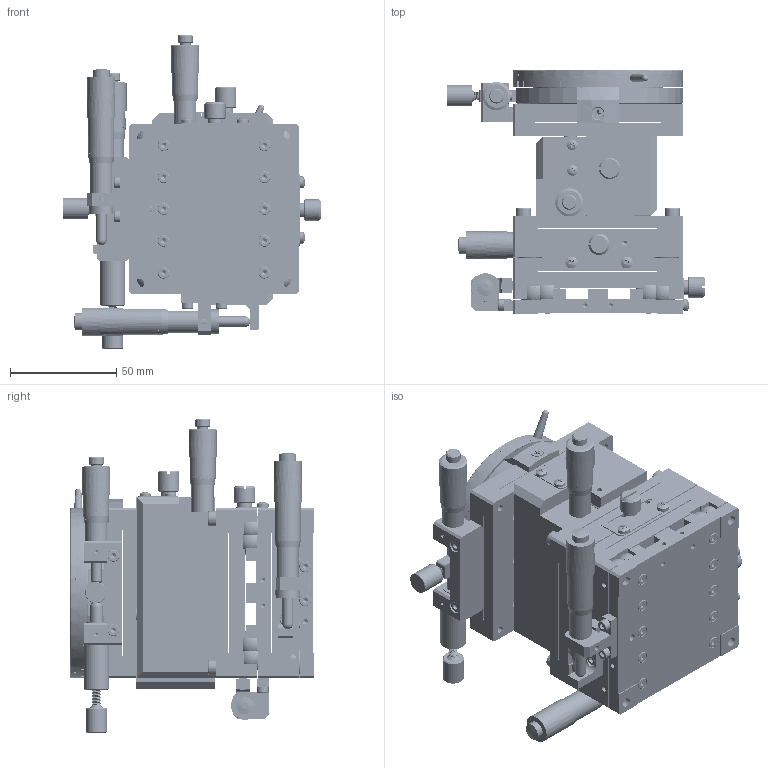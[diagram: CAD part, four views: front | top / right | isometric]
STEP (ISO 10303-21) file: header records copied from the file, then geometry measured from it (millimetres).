
FILE_DESCRIPTION (( 'STEP AP203' ), '1' );
FILE_NAME ('BLT80.STEP', '2024-07-27T07:44:58', ( 'Windows User' ), ( 'P R C' ), 'SwSTEP 2.0', 'SolidWorks 2024', '' );
FILE_SCHEMA (( 'CONFIG_CONTROL_DESIGN' ));
Products named in the file (1): BLT80
Bounding box: 121.66 x 115 x 147.75 mm (x, y, z)
Volume: 579012.7 mm3; surface area: 287735.8 mm2
Topology: 140 solids, 140 shells, 9825 faces, 25347 edges, 16493 vertices
Faces by surface type: bspline 4210, plane 2912, cylinder 1805, cone 776, torus 106, sphere 16
Full cylindrical faces by diameter (mm): 1.6 x4, 2.05 x13, 2.5 x77, 2.55 x40, 2.6 x3, 2.8 x1, 2.85 x1, 2.9 x7, 2.95 x18, 3 x66, 3.1 x4, 3.2 x6, 3.3 x65, 3.4 x52, 4 x15, 4.4 x40, 4.5 x32, 5 x14, 5.1 x1, 5.3 x1, 5.5 x62, 5.6 x4, 5.8 x4, 6 x57, 6.05 x1, 7 x17, 7.5 x5, 8 x24, 8.1 x2, 8.156 x4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
Entity records: 558708 total; most frequent: CARTESIAN_POINT 366669, ORIENTED_EDGE 47476, EDGE_CURVE 23738, DIRECTION 23299, VERTEX_POINT 16099, B_SPLINE_CURVE_WITH_KNOTS 14815, EDGE_LOOP 12239, FACE_OUTER_BOUND 10590
